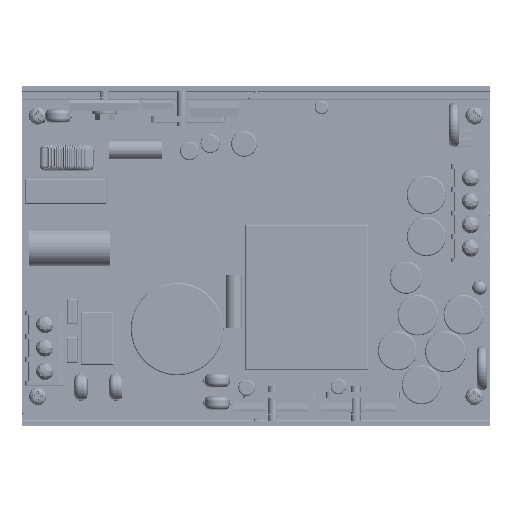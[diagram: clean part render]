
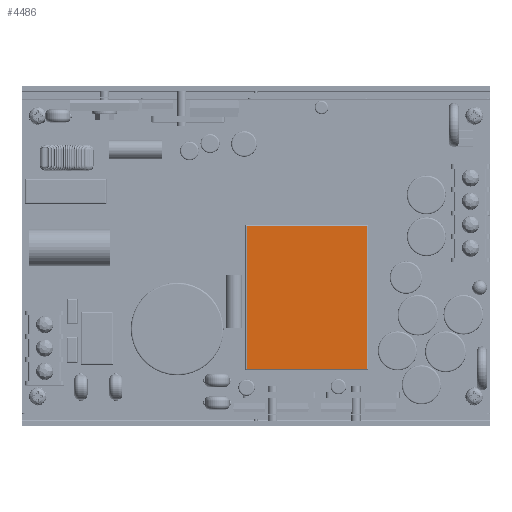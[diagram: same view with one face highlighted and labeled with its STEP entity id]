
A CAD part, top view. The second image highlights one B-rep face of the part: STEP entity #4486.
In plain terms, the highlighted planar face has unit normal (0, 0, 1).
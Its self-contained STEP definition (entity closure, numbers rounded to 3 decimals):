
#875=DIRECTION('',(0.,1.,0.));
#876=VECTOR('',#875,45.661);
#877=CARTESIAN_POINT('',(110.536,13.863,22.6));
#878=LINE('',#877,#876);
#898=DIRECTION('',(-1.,0.,0.));
#899=VECTOR('',#898,38.483);
#900=CARTESIAN_POINT('',(110.536,59.524,22.6));
#901=LINE('',#900,#899);
#921=DIRECTION('',(0.,-1.,0.));
#922=VECTOR('',#921,45.661);
#923=CARTESIAN_POINT('',(72.053,59.524,22.6));
#924=LINE('',#923,#922);
#944=DIRECTION('',(1.,0.,0.));
#945=VECTOR('',#944,38.483);
#946=CARTESIAN_POINT('',(72.053,13.863,22.6));
#947=LINE('',#946,#945);
#2984=CARTESIAN_POINT('',(110.536,13.863,22.6));
#2985=CARTESIAN_POINT('',(110.536,59.524,22.6));
#2986=VERTEX_POINT('',#2984);
#2987=VERTEX_POINT('',#2985);
#2990=CARTESIAN_POINT('',(72.053,59.524,22.6));
#2991=VERTEX_POINT('',#2990);
#2992=CARTESIAN_POINT('',(72.053,13.863,22.6));
#2993=VERTEX_POINT('',#2992);
#4472=CARTESIAN_POINT('',(91.295,36.694,22.6));
#4473=DIRECTION('',(0.,0.,1.));
#4474=DIRECTION('',(1.,0.,0.));
#4475=AXIS2_PLACEMENT_3D('',#4472,#4473,#4474);
#4476=PLANE('',#4475);
#4478=ORIENTED_EDGE('',*,*,#4477,.F.);
#4479=ORIENTED_EDGE('',*,*,#4458,.F.);
#4481=ORIENTED_EDGE('',*,*,#4480,.F.);
#4483=ORIENTED_EDGE('',*,*,#4482,.F.);
#4484=EDGE_LOOP('',(#4478,#4479,#4481,#4483));
#4485=FACE_OUTER_BOUND('',#4484,.F.);
#4458=EDGE_CURVE('',#2986,#2987,#878,.T.);
#4477=EDGE_CURVE('',#2987,#2991,#901,.T.);
#4480=EDGE_CURVE('',#2993,#2986,#947,.T.);
#4482=EDGE_CURVE('',#2991,#2993,#924,.T.);
#4486=ADVANCED_FACE('',(#4485),#4476,.T.);
